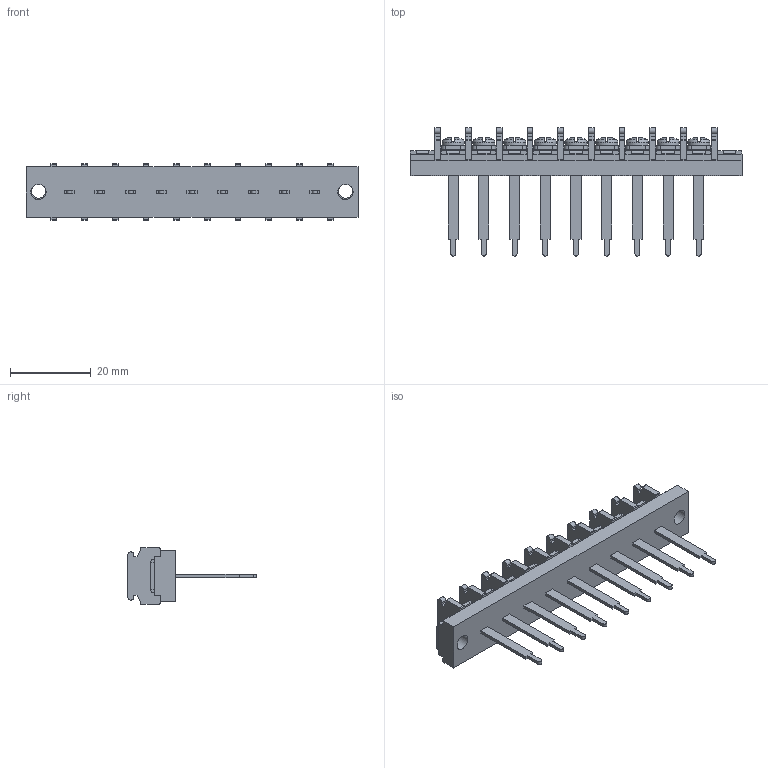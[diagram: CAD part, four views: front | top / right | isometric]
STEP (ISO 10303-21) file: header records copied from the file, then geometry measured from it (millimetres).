
FILE_DESCRIPTION(/* description */ ('Alibre Inc.'),/* implementation_level */ '2;1');
FILE_NAME(/* name */ 'export0',/* time_stamp */ '2015-10-26T16:32:07+09:00',/* author */ (''),/* organization */ (''),/* preprocessor_version */ 'ST-DEVELOPER v14',/* originating_system */ 'Alibre',/* authorisation */ '');
FILE_SCHEMA (('CONFIG_CONTROL_DESIGN'));
Length unit declared in the file: centimetre
Products named in the file (1): ID_1
Bounding box: 82.4 x 31.8 x 14 mm (x, y, z)
Volume: 7649.2 mm3; surface area: 7918.6 mm2
Topology: 1 solids, 17 shells, 1496 faces, 4078 edges, 2674 vertices
Faces by surface type: plane 1171, cylinder 149, bspline 104, cone 36, torus 18, sphere 18
Full cylindrical faces by diameter (mm): 3 x9, 3.5 x2, 3.8 x2, 5.5 x9
Entity records: 44605 total; most frequent: CARTESIAN_POINT 9410, ORIENTED_EDGE 8032, DIRECTION 5627, EDGE_CURVE 4016, VECTOR 2948, LINE 2948, VERTEX_POINT 2652, AXIS2_PLACEMENT_3D 1878
